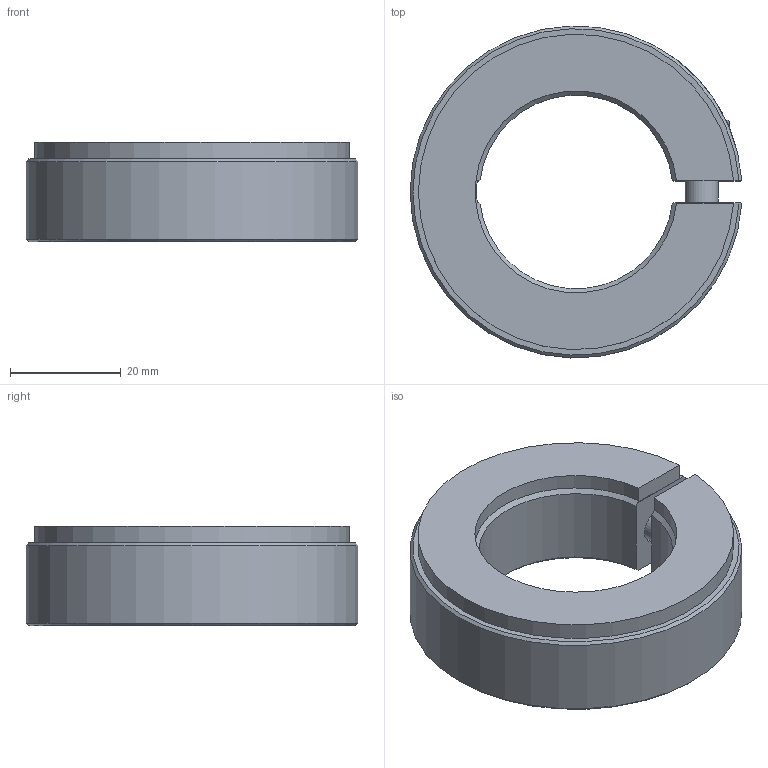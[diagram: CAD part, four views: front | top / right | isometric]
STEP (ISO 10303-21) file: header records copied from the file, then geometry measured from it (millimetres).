
FILE_DESCRIPTION( ( 'STEP AP203' ), '1' );
FILE_NAME( 'C:/Temp/Ganter_Step_05_03_2020/data/3_2/gn7062_3/Semi-split Stainless Steel-Set collar GN 7062.3-60-B35-NI.stp', '2020-03-13T05:40:27', ( 'License CC BY-ND 4.0' ), ( 'CADENAS' ), ' ', 'PARTsolutions', ' ' );
FILE_SCHEMA( ( 'CONFIG_CONTROL_DESIGN' ) );
Length unit declared in the file: millimetre
Products named in the file (1): _Semi-split Stainless Steel-Set collar GN 7062.3-60-B35-NI
Bounding box: 59.93 x 59.97 x 18 mm (x, y, z)
Volume: 30578.9 mm3; surface area: 10076.6 mm2
Topology: 1 solids, 1 shells, 36 faces, 89 edges, 59 vertices
Faces by surface type: plane 20, cylinder 10, cone 5, torus 1
Full cylindrical faces by diameter (mm): 6 x1, 6.4 x1, 10 x1, 10.5 x1
Entity records: 1188 total; most frequent: CARTESIAN_POINT 303, DIRECTION 170, ORIENTED_EDGE 168, EDGE_CURVE 84, AXIS2_PLACEMENT_3D 64, VERTEX_POINT 59, EDGE_LOOP 47, LINE 42
